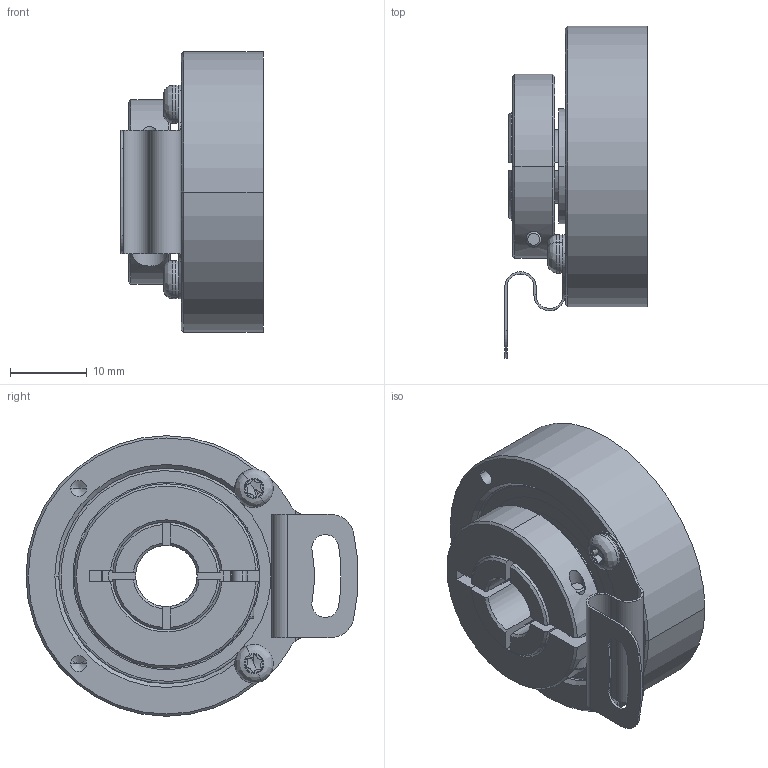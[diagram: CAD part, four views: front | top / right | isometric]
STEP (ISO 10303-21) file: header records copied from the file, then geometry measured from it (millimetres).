
FILE_DESCRIPTION (( 'STEP AP214' ), '1' );
FILE_NAME ('drawing-ucd-v8t0-q3a-n.STEP', '2017-01-16T15:45:27', ( '' ), ( '' ), 'SwSTEP 2.0', 'SolidWorks 2015', '' );
FILE_SCHEMA (( 'AUTOMOTIVE_DESIGN' ));
Length unit declared in the file: millimetre
Products named in the file (1): drawing-ucd-v8t0-q3a-n
Bounding box: 18.5 x 43.18 x 36.5 mm (x, y, z)
Volume: 10521.6 mm3; surface area: 13494.8 mm2
Topology: 20 solids, 20 shells, 426 faces, 1084 edges, 661 vertices
Faces by surface type: cylinder 147, plane 107, cone 84, bspline 84, torus 4
Entity records: 20271 total; most frequent: CARTESIAN_POINT 5609, ORIENTED_EDGE 2056, DIRECTION 2028, EDGE_CURVE 1028, AXIS2_PLACEMENT_3D 862, VERTEX_POINT 661, CIRCLE 519, EDGE_LOOP 485
